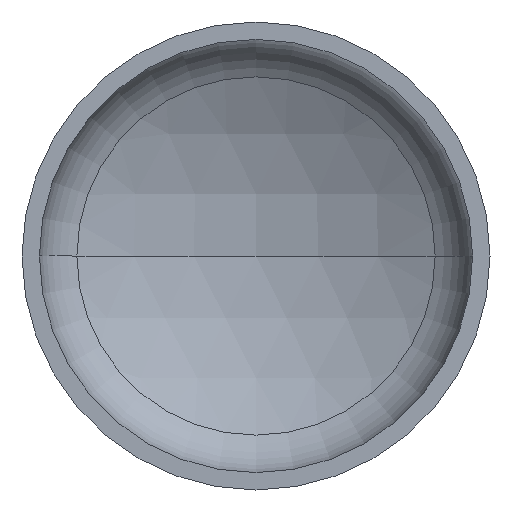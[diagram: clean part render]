
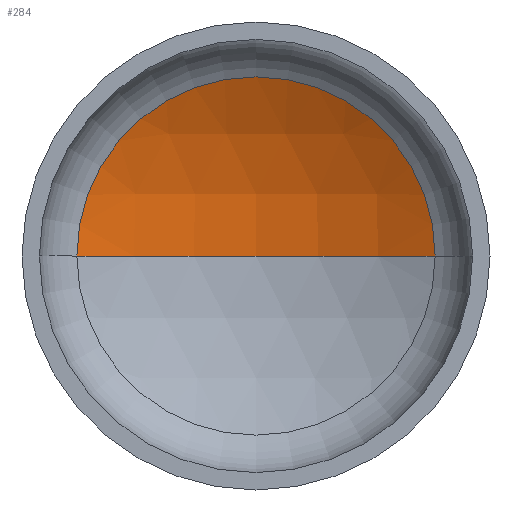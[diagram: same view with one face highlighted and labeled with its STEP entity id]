
A CAD part, front view. The second image highlights one B-rep face of the part: STEP entity #284.
In plain terms, the highlighted spherical face has radius 2240 mm.
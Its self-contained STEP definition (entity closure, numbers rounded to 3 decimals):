
#3 = EDGE_LOOP ( 'NONE', ( #9, #182, #105 ) ) ;
#4 = DIRECTION ( 'NONE',  ( 0., 0., -1. ) ) ;
#9 = ORIENTED_EDGE ( 'NONE', *, *, #106, .F. ) ;
#21 = AXIS2_PLACEMENT_3D ( 'NONE', #53, #39, #392 ) ;
#38 = AXIS2_PLACEMENT_3D ( 'NONE', #270, #85, #292 ) ;
#39 = DIRECTION ( 'NONE',  ( 0., 0., -1. ) ) ;
#40 = VERTEX_POINT ( 'NONE', #242 ) ;
#41 = AXIS2_PLACEMENT_3D ( 'NONE', #203, #4, #308 ) ;
#42 = VERTEX_POINT ( 'NONE', #250 ) ;
#43 = AXIS2_PLACEMENT_3D ( 'NONE', #252, #230, #384 ) ;
#53 = CARTESIAN_POINT ( 'NONE',  ( 0., -1514.385, 0. ) ) ;
#83 = VERTEX_POINT ( 'NONE', #197 ) ;
#85 = DIRECTION ( 'NONE',  ( 0., 0., 1. ) ) ;
#95 = EDGE_CURVE ( 'NONE', #42, #83, #331, .T. ) ;
#96 = EDGE_CURVE ( 'NONE', #40, #42, #273, .T. ) ;
#105 = ORIENTED_EDGE ( 'NONE', *, *, #95, .T. ) ;
#106 = EDGE_CURVE ( 'NONE', #40, #83, #218, .T. ) ;
#182 = ORIENTED_EDGE ( 'NONE', *, *, #96, .T. ) ;
#192 = FACE_OUTER_BOUND ( 'NONE', #3, .T. ) ;
#197 = CARTESIAN_POINT ( 'NONE',  ( -1071.735, 452.589, 0. ) ) ;
#200 = SPHERICAL_SURFACE ( 'NONE', #21, 2240. ) ;
#203 = CARTESIAN_POINT ( 'NONE',  ( 0., -1514.385, 0. ) ) ;
#218 = CIRCLE ( 'NONE', #38, 2240. ) ;
#230 = DIRECTION ( 'NONE',  ( 0., -1., 0. ) ) ;
#242 = CARTESIAN_POINT ( 'NONE',  ( 0., 725.615, 0. ) ) ;
#250 = CARTESIAN_POINT ( 'NONE',  ( 1071.735, 452.589, 0. ) ) ;
#252 = CARTESIAN_POINT ( 'NONE',  ( 0., 452.589, 0. ) ) ;
#270 = CARTESIAN_POINT ( 'NONE',  ( 0., -1514.385, 0. ) ) ;
#273 = CIRCLE ( 'NONE', #41, 2240. ) ;
#284 = ADVANCED_FACE ( 'NONE', ( #192 ), #200, .F. ) ;
#292 = DIRECTION ( 'NONE',  ( 1., 0., 0. ) ) ;
#308 = DIRECTION ( 'NONE',  ( -1., 0., 0. ) ) ;
#331 = CIRCLE ( 'NONE', #43, 1071.735 ) ;
#384 = DIRECTION ( 'NONE',  ( 1., 0., 0. ) ) ;
#392 = DIRECTION ( 'NONE',  ( -1., 0., 0. ) ) ;
